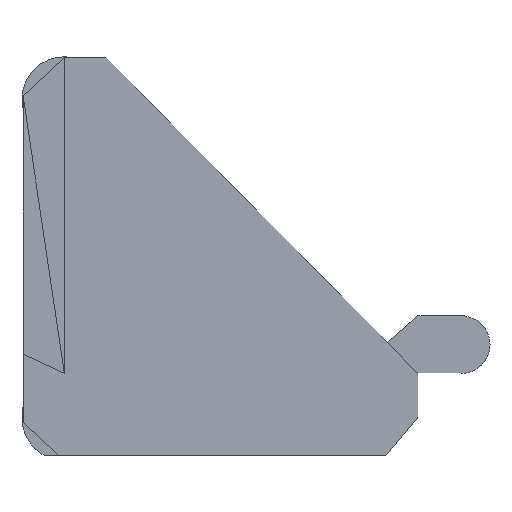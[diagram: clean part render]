
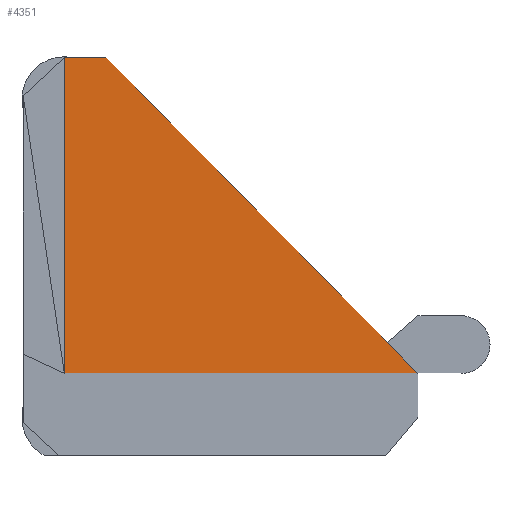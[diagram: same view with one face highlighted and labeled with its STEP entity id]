
A CAD part, front view. The second image highlights one B-rep face of the part: STEP entity #4351.
In plain terms, the highlighted planar face has unit normal (0, -1, 0).
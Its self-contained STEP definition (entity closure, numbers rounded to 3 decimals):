
#120 = PLANE('',#121);
#121 = AXIS2_PLACEMENT_3D('',#122,#123,#124);
#122 = CARTESIAN_POINT('',(18.102,-4.7,8.549));
#123 = DIRECTION('',(0.,0.,1.));
#124 = DIRECTION('',(1.,-0.,0.));
#729 = VERTEX_POINT('',#730);
#730 = CARTESIAN_POINT('',(17.628,-5.944,8.549));
#751 = EDGE_CURVE('',#729,#752,#754,.T.);
#752 = VERTEX_POINT('',#753);
#753 = CARTESIAN_POINT('',(19.063,-5.944,8.549));
#754 = SURFACE_CURVE('',#755,(#759,#766),.PCURVE_S1.);
#755 = LINE('',#756,#757);
#756 = CARTESIAN_POINT('',(17.628,-5.944,8.549));
#757 = VECTOR('',#758,1.);
#758 = DIRECTION('',(1.,-0.,0.));
#759 = PCURVE('',#120,#760);
#760 = DEFINITIONAL_REPRESENTATION('',(#761),#765);
#761 = LINE('',#762,#763);
#762 = CARTESIAN_POINT('',(-0.474,-1.243));
#763 = VECTOR('',#764,1.);
#764 = DIRECTION('',(1.,0.));
#765 = ( GEOMETRIC_REPRESENTATION_CONTEXT(2) 
PARAMETRIC_REPRESENTATION_CONTEXT() REPRESENTATION_CONTEXT('2D SPACE',''
  ) );
#766 = PCURVE('',#767,#772);
#767 = PLANE('',#768);
#768 = AXIS2_PLACEMENT_3D('',#769,#770,#771);
#769 = CARTESIAN_POINT('',(23.864,-5.944,3.3));
#770 = DIRECTION('',(-0.,-1.,0.));
#771 = DIRECTION('',(0.,0.,-1.));
#772 = DEFINITIONAL_REPRESENTATION('',(#773),#777);
#773 = LINE('',#774,#775);
#774 = CARTESIAN_POINT('',(-5.249,-6.236));
#775 = VECTOR('',#776,1.);
#776 = DIRECTION('',(0.,1.));
#777 = ( GEOMETRIC_REPRESENTATION_CONTEXT(2) 
PARAMETRIC_REPRESENTATION_CONTEXT() REPRESENTATION_CONTEXT('2D SPACE',''
  ) );
#793 = PLANE('',#794);
#794 = AXIS2_PLACEMENT_3D('',#795,#796,#797);
#795 = CARTESIAN_POINT('',(24.154,-4.476,3.396));
#796 = DIRECTION('',(0.711,-0.,0.703));
#797 = DIRECTION('',(-0.703,0.,0.711));
#4161 = PLANE('',#4162);
#4162 = AXIS2_PLACEMENT_3D('',#4163,#4164,#4165);
#4163 = CARTESIAN_POINT('',(24.122,-5.944,-2.826));
#4164 = DIRECTION('',(-0.,-1.,0.));
#4165 = DIRECTION('',(-0.,0.,-1.));
#4340 = PLANE('',#4341);
#4341 = AXIS2_PLACEMENT_3D('',#4342,#4343,#4344);
#4342 = CARTESIAN_POINT('',(17.258,-5.944,3.193));
#4343 = DIRECTION('',(0.,-1.,0.));
#4344 = DIRECTION('',(0.,0.,-1.));
#4351 = ADVANCED_FACE('',(#4352),#767,.T.);
#4352 = FACE_BOUND('',#4353,.T.);
#4353 = EDGE_LOOP('',(#4354,#4374,#4375,#4398,#4421,#4447));
#4354 = ORIENTED_EDGE('',*,*,#4355,.F.);
#4355 = EDGE_CURVE('',#752,#4356,#4358,.T.);
#4356 = VERTEX_POINT('',#4357);
#4357 = CARTESIAN_POINT('',(29.903,-5.944,-2.422)
  );
#4358 = SURFACE_CURVE('',#4359,(#4362,#4368),.PCURVE_S1.);
#4359 = B_SPLINE_CURVE_WITH_KNOTS('',1,(#4360,#4361),.UNSPECIFIED.,.F.,
  .F.,(2,2),(0.,15.423),.PIECEWISE_BEZIER_KNOTS.);
#4360 = CARTESIAN_POINT('',(19.063,-5.944,8.549));
#4361 = CARTESIAN_POINT('',(29.903,-5.944,-2.422));
#4362 = PCURVE('',#767,#4363);
#4363 = DEFINITIONAL_REPRESENTATION('',(#4364),#4367);
#4364 = B_SPLINE_CURVE_WITH_KNOTS('',1,(#4365,#4366),.UNSPECIFIED.,.F.,
  .F.,(2,2),(0.,15.423),.PIECEWISE_BEZIER_KNOTS.);
#4365 = CARTESIAN_POINT('',(-5.249,-4.801));
#4366 = CARTESIAN_POINT('',(5.722,6.039));
#4367 = ( GEOMETRIC_REPRESENTATION_CONTEXT(2) 
PARAMETRIC_REPRESENTATION_CONTEXT() REPRESENTATION_CONTEXT('2D SPACE',''
  ) );
#4368 = PCURVE('',#793,#4369);
#4369 = DEFINITIONAL_REPRESENTATION('',(#4370),#4373);
#4370 = B_SPLINE_CURVE_WITH_KNOTS('',1,(#4371,#4372),.UNSPECIFIED.,.F.,
  .F.,(2,2),(0.,15.423),.PIECEWISE_BEZIER_KNOTS.);
#4371 = CARTESIAN_POINT('',(7.244,1.468));
#4372 = CARTESIAN_POINT('',(-8.179,1.468));
#4373 = ( GEOMETRIC_REPRESENTATION_CONTEXT(2) 
PARAMETRIC_REPRESENTATION_CONTEXT() REPRESENTATION_CONTEXT('2D SPACE',''
  ) );
#4374 = ORIENTED_EDGE('',*,*,#751,.F.);
#4375 = ORIENTED_EDGE('',*,*,#4376,.F.);
#4376 = EDGE_CURVE('',#4377,#729,#4379,.T.);
#4377 = VERTEX_POINT('',#4378);
#4378 = CARTESIAN_POINT('',(17.628,-5.944,-2.422));
#4379 = SURFACE_CURVE('',#4380,(#4384,#4391),.PCURVE_S1.);
#4380 = LINE('',#4381,#4382);
#4381 = CARTESIAN_POINT('',(17.628,-5.944,-2.422));
#4382 = VECTOR('',#4383,1.);
#4383 = DIRECTION('',(-0.,0.,1.));
#4384 = PCURVE('',#767,#4385);
#4385 = DEFINITIONAL_REPRESENTATION('',(#4386),#4390);
#4386 = LINE('',#4387,#4388);
#4387 = CARTESIAN_POINT('',(5.722,-6.236));
#4388 = VECTOR('',#4389,1.);
#4389 = DIRECTION('',(-1.,0.));
#4390 = ( GEOMETRIC_REPRESENTATION_CONTEXT(2) 
PARAMETRIC_REPRESENTATION_CONTEXT() REPRESENTATION_CONTEXT('2D SPACE',''
  ) );
#4391 = PCURVE('',#4340,#4392);
#4392 = DEFINITIONAL_REPRESENTATION('',(#4393),#4397);
#4393 = LINE('',#4394,#4395);
#4394 = CARTESIAN_POINT('',(5.616,0.37));
#4395 = VECTOR('',#4396,1.);
#4396 = DIRECTION('',(-1.,0.));
#4397 = ( GEOMETRIC_REPRESENTATION_CONTEXT(2) 
PARAMETRIC_REPRESENTATION_CONTEXT() REPRESENTATION_CONTEXT('2D SPACE',''
  ) );
#4398 = ORIENTED_EDGE('',*,*,#4399,.T.);
#4399 = EDGE_CURVE('',#4377,#4400,#4402,.T.);
#4400 = VERTEX_POINT('',#4401);
#4401 = CARTESIAN_POINT('',(29.903,-5.944,-2.422));
#4402 = SURFACE_CURVE('',#4403,(#4407,#4414),.PCURVE_S1.);
#4403 = LINE('',#4404,#4405);
#4404 = CARTESIAN_POINT('',(17.628,-5.944,-2.422));
#4405 = VECTOR('',#4406,1.);
#4406 = DIRECTION('',(1.,-0.,0.));
#4407 = PCURVE('',#767,#4408);
#4408 = DEFINITIONAL_REPRESENTATION('',(#4409),#4413);
#4409 = LINE('',#4410,#4411);
#4410 = CARTESIAN_POINT('',(5.722,-6.236));
#4411 = VECTOR('',#4412,1.);
#4412 = DIRECTION('',(0.,1.));
#4413 = ( GEOMETRIC_REPRESENTATION_CONTEXT(2) 
PARAMETRIC_REPRESENTATION_CONTEXT() REPRESENTATION_CONTEXT('2D SPACE',''
  ) );
#4414 = PCURVE('',#4161,#4415);
#4415 = DEFINITIONAL_REPRESENTATION('',(#4416),#4420);
#4416 = LINE('',#4417,#4418);
#4417 = CARTESIAN_POINT('',(-0.404,-6.494));
#4418 = VECTOR('',#4419,1.);
#4419 = DIRECTION('',(0.,1.));
#4420 = ( GEOMETRIC_REPRESENTATION_CONTEXT(2) 
PARAMETRIC_REPRESENTATION_CONTEXT() REPRESENTATION_CONTEXT('2D SPACE',''
  ) );
#4421 = ORIENTED_EDGE('',*,*,#4422,.T.);
#4422 = EDGE_CURVE('',#4400,#4423,#4425,.T.);
#4423 = VERTEX_POINT('',#4424);
#4424 = CARTESIAN_POINT('',(29.903,-5.944,-2.422));
#4425 = SURFACE_CURVE('',#4426,(#4430,#4436),.PCURVE_S1.);
#4426 = LINE('',#4427,#4428);
#4427 = CARTESIAN_POINT('',(29.903,-5.944,0.439)
  );
#4428 = VECTOR('',#4429,1.);
#4429 = DIRECTION('',(0.,0.,1.));
#4430 = PCURVE('',#767,#4431);
#4431 = DEFINITIONAL_REPRESENTATION('',(#4432),#4435);
#4432 = B_SPLINE_CURVE_WITH_KNOTS('',1,(#4433,#4434),.UNSPECIFIED.,.F.,
  .F.,(2,2),(-2.861,-2.861),.PIECEWISE_BEZIER_KNOTS.);
#4433 = CARTESIAN_POINT('',(5.722,6.039));
#4434 = CARTESIAN_POINT('',(5.722,6.039));
#4435 = ( GEOMETRIC_REPRESENTATION_CONTEXT(2) 
PARAMETRIC_REPRESENTATION_CONTEXT() REPRESENTATION_CONTEXT('2D SPACE',''
  ) );
#4436 = PCURVE('',#4437,#4442);
#4437 = PLANE('',#4438);
#4438 = AXIS2_PLACEMENT_3D('',#4439,#4440,#4441);
#4439 = CARTESIAN_POINT('',(29.903,-7.,-2.422));
#4440 = DIRECTION('',(1.,0.,-0.));
#4441 = DIRECTION('',(0.,0.,1.));
#4442 = DEFINITIONAL_REPRESENTATION('',(#4443),#4446);
#4443 = B_SPLINE_CURVE_WITH_KNOTS('',1,(#4444,#4445),.UNSPECIFIED.,.F.,
  .F.,(2,2),(-2.861,-2.861),.PIECEWISE_BEZIER_KNOTS.);
#4444 = CARTESIAN_POINT('',(0.,-1.056));
#4445 = CARTESIAN_POINT('',(0.,-1.056));
#4446 = ( GEOMETRIC_REPRESENTATION_CONTEXT(2) 
PARAMETRIC_REPRESENTATION_CONTEXT() REPRESENTATION_CONTEXT('2D SPACE',''
  ) );
#4447 = ORIENTED_EDGE('',*,*,#4448,.F.);
#4448 = EDGE_CURVE('',#4356,#4423,#4449,.T.);
#4449 = SURFACE_CURVE('',#4450,(#4454,#4460),.PCURVE_S1.);
#4450 = LINE('',#4451,#4452);
#4451 = CARTESIAN_POINT('',(26.883,-5.944,-2.422));
#4452 = VECTOR('',#4453,1.);
#4453 = DIRECTION('',(-1.,0.,0.));
#4454 = PCURVE('',#767,#4455);
#4455 = DEFINITIONAL_REPRESENTATION('',(#4456),#4459);
#4456 = B_SPLINE_CURVE_WITH_KNOTS('',1,(#4457,#4458),.UNSPECIFIED.,.F.,
  .F.,(2,2),(-3.019,-3.019),.PIECEWISE_BEZIER_KNOTS.);
#4457 = CARTESIAN_POINT('',(5.722,6.039));
#4458 = CARTESIAN_POINT('',(5.722,6.039));
#4459 = ( GEOMETRIC_REPRESENTATION_CONTEXT(2) 
PARAMETRIC_REPRESENTATION_CONTEXT() REPRESENTATION_CONTEXT('2D SPACE',''
  ) );
#4460 = PCURVE('',#4461,#4466);
#4461 = PLANE('',#4462);
#4462 = AXIS2_PLACEMENT_3D('',#4463,#4464,#4465);
#4463 = CARTESIAN_POINT('',(29.903,-7.,-2.422));
#4464 = DIRECTION('',(0.,0.,1.));
#4465 = DIRECTION('',(1.,0.,-0.));
#4466 = DEFINITIONAL_REPRESENTATION('',(#4467),#4470);
#4467 = B_SPLINE_CURVE_WITH_KNOTS('',1,(#4468,#4469),.UNSPECIFIED.,.F.,
  .F.,(2,2),(-3.019,-3.019),.PIECEWISE_BEZIER_KNOTS.);
#4468 = CARTESIAN_POINT('',(0.,1.056));
#4469 = CARTESIAN_POINT('',(0.,1.056));
#4470 = ( GEOMETRIC_REPRESENTATION_CONTEXT(2) 
PARAMETRIC_REPRESENTATION_CONTEXT() REPRESENTATION_CONTEXT('2D SPACE',''
  ) );
